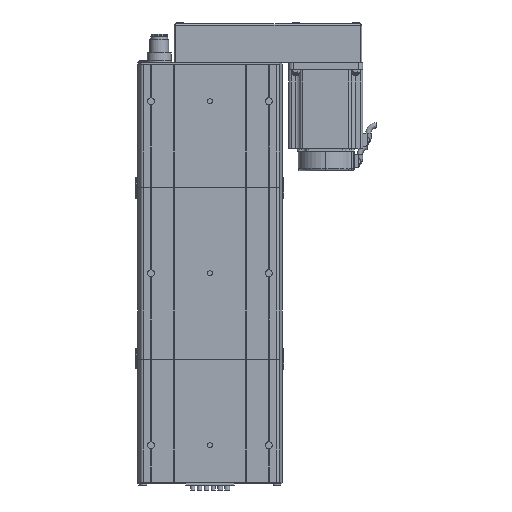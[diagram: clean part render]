
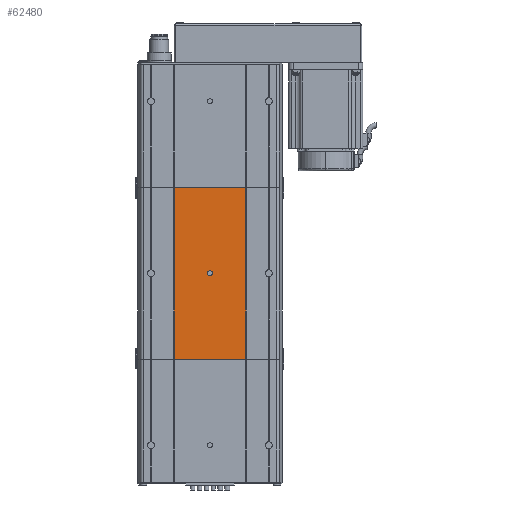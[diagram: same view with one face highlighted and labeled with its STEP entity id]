
A CAD part, front view. The second image highlights one B-rep face of the part: STEP entity #62480.
In plain terms, the highlighted planar face has unit normal (0, -1, 0).
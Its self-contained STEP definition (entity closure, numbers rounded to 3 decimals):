
#31876 = CARTESIAN_POINT ( 'NONE',  ( 0., 0., 97. ) ) ;
#31993 = CARTESIAN_POINT ( 'NONE',  ( 41.5, 0., 200. ) ) ;
#32364 = CARTESIAN_POINT ( 'NONE',  ( -41.5, 0., 200. ) ) ;
#32416 = CARTESIAN_POINT ( 'NONE',  ( 0., 0., 103. ) ) ;
#32946 = CARTESIAN_POINT ( 'NONE',  ( -41.5, 0., 0. ) ) ;
#33073 = DIRECTION ( 'NONE',  ( 1., 0., 0. ) ) ;
#33113 = DIRECTION ( 'NONE',  ( 0., 0., -1. ) ) ;
#33114 = DIRECTION ( 'NONE',  ( 0., -1., 0. ) ) ;
#33118 = DIRECTION ( 'NONE',  ( 0., 0., -1. ) ) ;
#33120 = VECTOR ( 'NONE', #33118, 1000. ) ;
#33121 = CARTESIAN_POINT ( 'NONE',  ( 0., 0., 100. ) ) ;
#33125 = LINE ( 'NONE', #33134, #33120 ) ;
#33130 = AXIS2_PLACEMENT_3D ( 'NONE', #33121, #33114, #33113 ) ;
#33134 = CARTESIAN_POINT ( 'NONE',  ( 41.5, 0., 200. ) ) ;
#33139 = CIRCLE ( 'NONE', #33130, 3. ) ;
#33166 = CARTESIAN_POINT ( 'NONE',  ( 0., 0., 100. ) ) ;
#33167 = AXIS2_PLACEMENT_3D ( 'NONE', #33166, #33217, #33215 ) ;
#33168 = CIRCLE ( 'NONE', #33167, 3. ) ;
#33189 = VECTOR ( 'NONE', #33073, 1000. ) ;
#33190 = CARTESIAN_POINT ( 'NONE',  ( 0., 0., 0. ) ) ;
#33191 = LINE ( 'NONE', #33190, #33189 ) ;
#33215 = DIRECTION ( 'NONE',  ( 0., 0., -1. ) ) ;
#33217 = DIRECTION ( 'NONE',  ( 0., -1., 0. ) ) ;
#33266 = DIRECTION ( 'NONE',  ( 0., 0., 1. ) ) ;
#33267 = DIRECTION ( 'NONE',  ( 0., 1., 0. ) ) ;
#33268 = CARTESIAN_POINT ( 'NONE',  ( 0., 0., 200. ) ) ;
#33275 = FACE_BOUND ( 'NONE', #62034, .T. ) ;
#33279 = FACE_OUTER_BOUND ( 'NONE', #62500, .T. ) ;
#33326 = PLANE ( 'NONE',  #33328 ) ;
#33328 = AXIS2_PLACEMENT_3D ( 'NONE', #33268, #33267, #33266 ) ;
#33402 = CARTESIAN_POINT ( 'NONE',  ( 41.5, 0., 0. ) ) ;
#33562 = LINE ( 'NONE', #33598, #33655 ) ;
#33563 = DIRECTION ( 'NONE',  ( 0., 0., -1. ) ) ;
#33574 = VECTOR ( 'NONE', #33563, 1000. ) ;
#33596 = LINE ( 'NONE', #33642, #33574 ) ;
#33598 = CARTESIAN_POINT ( 'NONE',  ( 0., 0., 200. ) ) ;
#33642 = CARTESIAN_POINT ( 'NONE',  ( -41.5, 0., 200. ) ) ;
#33654 = DIRECTION ( 'NONE',  ( 1., 0., 0. ) ) ;
#33655 = VECTOR ( 'NONE', #33654, 1000. ) ;
#62017 = VERTEX_POINT ( 'NONE', #31876 ) ;
#62034 = EDGE_LOOP ( 'NONE', ( #62440, #62320 ) ) ;
#62035 = VERTEX_POINT ( 'NONE', #31993 ) ;
#62150 = VERTEX_POINT ( 'NONE', #32364 ) ;
#62154 = VERTEX_POINT ( 'NONE', #32416 ) ;
#62280 = EDGE_CURVE ( 'NONE', #62154, #62017, #33168, .T. ) ;
#62294 = EDGE_CURVE ( 'NONE', #62321, #62407, #33191, .T. ) ;
#62313 = EDGE_CURVE ( 'NONE', #62035, #62407, #33125, .T. ) ;
#62314 = EDGE_CURVE ( 'NONE', #62017, #62154, #33139, .T. ) ;
#62320 = ORIENTED_EDGE ( 'NONE', *, *, #62280, .F. ) ;
#62321 = VERTEX_POINT ( 'NONE', #32946 ) ;
#62407 = VERTEX_POINT ( 'NONE', #33402 ) ;
#62439 = ORIENTED_EDGE ( 'NONE', *, *, #62313, .F. ) ;
#62440 = ORIENTED_EDGE ( 'NONE', *, *, #62314, .F. ) ;
#62480 = ADVANCED_FACE ( 'NONE', ( #33279, #33275 ), #33326, .F. ) ;
#62481 = ORIENTED_EDGE ( 'NONE', *, *, #62483, .T. ) ;
#62482 = ORIENTED_EDGE ( 'NONE', *, *, #62484, .F. ) ;
#62483 = EDGE_CURVE ( 'NONE', #62150, #62321, #33596, .T. ) ;
#62484 = EDGE_CURVE ( 'NONE', #62150, #62035, #33562, .T. ) ;
#62485 = ORIENTED_EDGE ( 'NONE', *, *, #62294, .T. ) ;
#62500 = EDGE_LOOP ( 'NONE', ( #62482, #62481, #62485, #62439 ) ) ;
